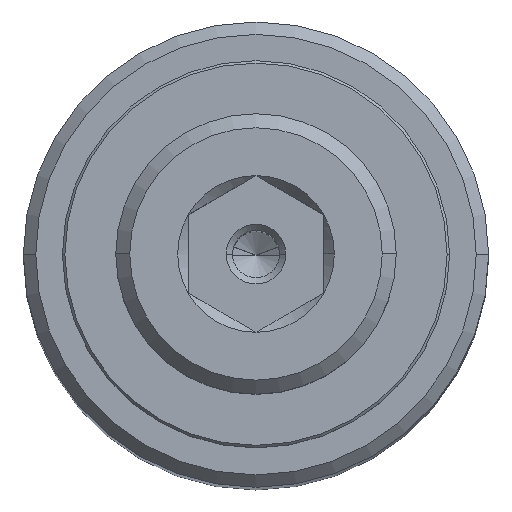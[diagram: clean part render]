
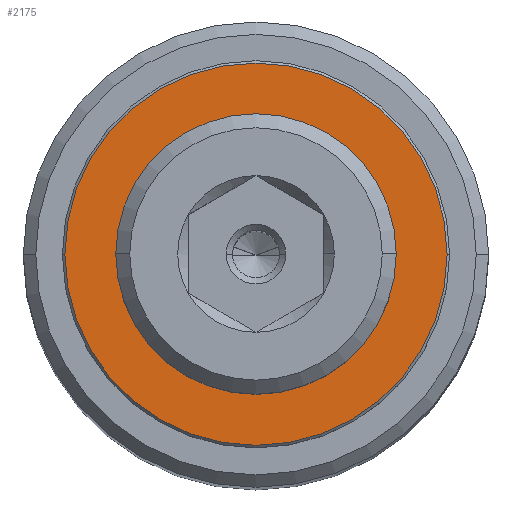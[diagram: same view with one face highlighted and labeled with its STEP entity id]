
A CAD part, top view. The second image highlights one B-rep face of the part: STEP entity #2175.
In plain terms, the highlighted planar face has unit normal (0, 0, 1).
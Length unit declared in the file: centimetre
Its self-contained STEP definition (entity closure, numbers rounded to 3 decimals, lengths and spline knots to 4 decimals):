
#317 = VERTEX_POINT ( 'NONE', #1892 ) ;
#325 = VERTEX_POINT ( 'NONE', #1893 ) ;
#330 = VERTEX_POINT ( 'NONE', #1899 ) ;
#401 = VERTEX_POINT ( 'NONE', #1933 ) ;
#438 = CIRCLE ( 'NONE', #2543, 0.2583 ) ;
#451 = CIRCLE ( 'NONE', #2615, 0.3912 ) ;
#558 = AXIS2_PLACEMENT_3D ( 'NONE', #975, #980, #981 ) ;
#571 = AXIS2_PLACEMENT_3D ( 'NONE', #1770, #1771, #1772 ) ;
#680 = CIRCLE ( 'NONE', #2526, 0.2583 ) ;
#729 = CIRCLE ( 'NONE', #571, 0.3912 ) ;
#787 = FACE_OUTER_BOUND ( 'NONE', #2744, .T. ) ;
#809 = FACE_BOUND ( 'NONE', #2768, .T. ) ;
#973 = PLANE ( 'NONE',  #558 ) ;
#975 = CARTESIAN_POINT ( 'NONE',  ( 0., 0., 3.6449 ) ) ;
#980 = DIRECTION ( 'NONE',  ( 0., 0., -1. ) ) ;
#981 = DIRECTION ( 'NONE',  ( 0., 1., 0. ) ) ;
#1392 = EDGE_CURVE ( 'NONE', #325, #401, #438, .T. ) ;
#1398 = EDGE_CURVE ( 'NONE', #317, #330, #451, .T. ) ;
#1493 = EDGE_CURVE ( 'NONE', #401, #325, #680, .T. ) ;
#1531 = EDGE_CURVE ( 'NONE', #330, #317, #729, .T. ) ;
#1659 = CARTESIAN_POINT ( 'NONE',  ( 0., 0., 3.6449 ) ) ;
#1660 = DIRECTION ( 'NONE',  ( 0., 0., 1. ) ) ;
#1661 = DIRECTION ( 'NONE',  ( 1., 0., 0. ) ) ;
#1770 = CARTESIAN_POINT ( 'NONE',  ( 0., 0., 3.6449 ) ) ;
#1771 = DIRECTION ( 'NONE',  ( 0., 0., -1. ) ) ;
#1772 = DIRECTION ( 'NONE',  ( -1., 0., 0. ) ) ;
#1892 = CARTESIAN_POINT ( 'NONE',  ( -0.3912, 0., 3.6449 ) ) ;
#1893 = CARTESIAN_POINT ( 'NONE',  ( 0.2583, 0., 3.6449 ) ) ;
#1899 = CARTESIAN_POINT ( 'NONE',  ( 0.3912, 0., 3.6449 ) ) ;
#1933 = CARTESIAN_POINT ( 'NONE',  ( -0.2583, 0., 3.6449 ) ) ;
#1950 = CARTESIAN_POINT ( 'NONE',  ( 0., 0., 3.6449 ) ) ;
#1951 = DIRECTION ( 'NONE',  ( 0., 0., 1. ) ) ;
#1952 = DIRECTION ( 'NONE',  ( 1., 0., 0. ) ) ;
#1967 = CARTESIAN_POINT ( 'NONE',  ( 0., 0., 3.6449 ) ) ;
#1968 = DIRECTION ( 'NONE',  ( 0., 0., -1. ) ) ;
#1969 = DIRECTION ( 'NONE',  ( -1., 0., 0. ) ) ;
#2175 = ADVANCED_FACE ( 'NONE', ( #787, #809 ), #973, .F. ) ;
#2526 = AXIS2_PLACEMENT_3D ( 'NONE', #1659, #1660, #1661 ) ;
#2543 = AXIS2_PLACEMENT_3D ( 'NONE', #1950, #1951, #1952 ) ;
#2615 = AXIS2_PLACEMENT_3D ( 'NONE', #1967, #1968, #1969 ) ;
#2744 = EDGE_LOOP ( 'NONE', ( #2877, #2878 ) ) ;
#2768 = EDGE_LOOP ( 'NONE', ( #2879, #2880 ) ) ;
#2877 = ORIENTED_EDGE ( 'NONE', *, *, #1398, .F. ) ;
#2878 = ORIENTED_EDGE ( 'NONE', *, *, #1531, .F. ) ;
#2879 = ORIENTED_EDGE ( 'NONE', *, *, #1392, .F. ) ;
#2880 = ORIENTED_EDGE ( 'NONE', *, *, #1493, .F. ) ;
